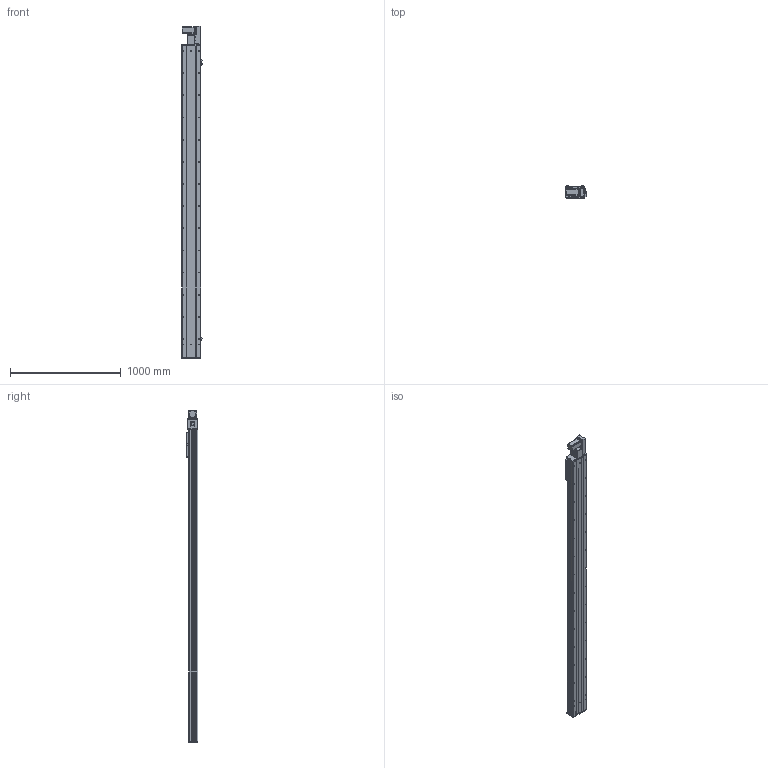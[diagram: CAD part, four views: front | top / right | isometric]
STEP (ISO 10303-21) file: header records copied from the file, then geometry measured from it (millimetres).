
FILE_DESCRIPTION (( 'STEP AP203' ), '1' );
FILE_NAME ('Y170CB-D105-S2500-BR-P400W.STEP', '2020-02-19T09:50:28', ( '微软用户' ), ( '微软中国' ), 'SwSTEP 2.0', 'SolidWorks 2017', '' );
FILE_SCHEMA (( 'CONFIG_CONTROL_DESIGN' ));
Length unit declared in the file: millimetre
Products named in the file (17): Y70俋欶BR----; 70CB-掛极-; --70CB --喘謫眊楊擘啣-; 70CB-耜裔啣-; 70C--詩湍揤踡え-; 70CB--耜裔; 70C-雄赽釱-奻-; 0C--雄赽釱俋欶-170; 70CB-詩湍--; Y100-135俋离換覜ん--; Y170CB-陔俋离換覜結え---; Y170CB-D105-S2500-BR-P400W; san松下电机400不带刹车----; 0B-萇儂楊擘啣; 17B-耜蚾蟀諉啣----; 70B喘謫眊----; B-源倛裔啣
Assembly tree (20 placements, depth 2):
  Y170CB-D105-S2500-BR-P400W
    70B喘謫眊----
    B-源倛裔啣
    17B-耜蚾蟀諉啣----
    0B-萇儂楊擘啣
    san松下电机400不带刹车----
    Y70俋欶BR----
    70CB-掛极-
    --70CB --喘謫眊楊擘啣-
    70CB-耜裔啣-  x2
    70C--詩湍揤踡え-  x2
    70CB--耜裔
    70C-雄赽釱-奻-
    0C--雄赽釱俋欶-170
    70CB-詩湍--
    Y100-135俋离換覜ん--  x3
    Y170CB-陔俋离換覜結え---
Bounding box: 183.5 x 107 x 2997 mm (x, y, z)
Volume: 12437749.4 mm3; surface area: 4484357 mm2
Topology: 20 solids, 20 shells, 1057 faces, 2849 edges, 1890 vertices
Faces by surface type: cylinder 571, plane 462, cone 24
Entity records: 33795 total; most frequent: CARTESIAN_POINT 6261, DIRECTION 5500, ORIENTED_EDGE 5180, EDGE_CURVE 2590, AXIS2_PLACEMENT_3D 2025, VERTEX_POINT 1720, LINE 1450, VECTOR 1450
